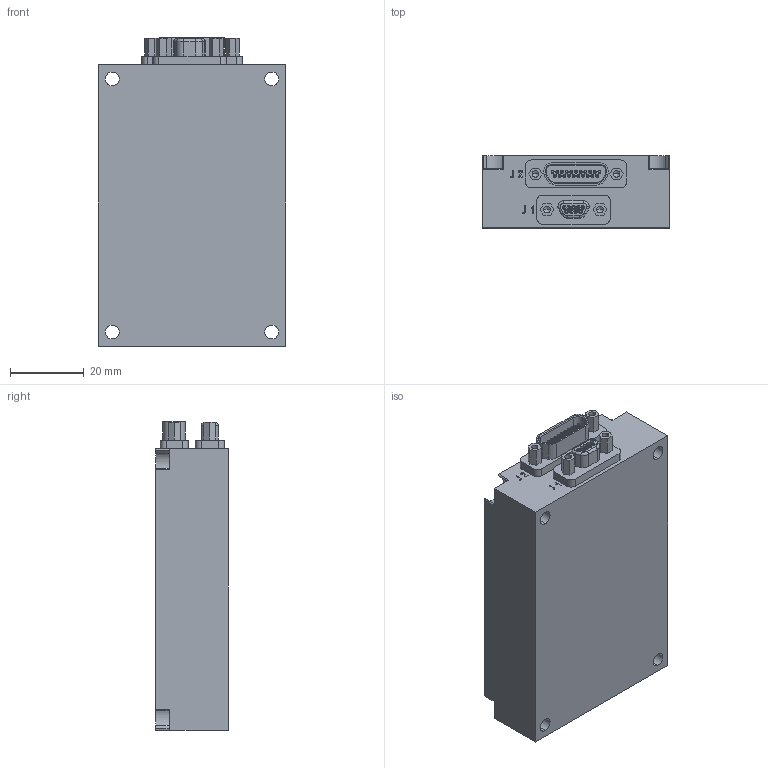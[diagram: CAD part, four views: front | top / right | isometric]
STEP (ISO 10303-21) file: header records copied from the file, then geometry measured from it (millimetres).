
FILE_DESCRIPTION (( 'STEP AP214' ), '1' );
FILE_NAME ('QSX-EVTM-SED-XX.STEP', '2017-04-28T13:44:32', ( '' ), ( '' ), 'SwSTEP 2.0', 'SolidWorks 2016', '' );
FILE_SCHEMA (( 'AUTOMOTIVE_DESIGN' ));
Length unit declared in the file: inch
Products named in the file (1): QSX-EVTM-SED-XX
Bounding box: 50.8 x 19.56 x 83.52 mm (x, y, z)
Volume: 76151.2 mm3; surface area: 16223 mm2
Topology: 9 solids, 9 shells, 713 faces, 1694 edges, 1105 vertices
Faces by surface type: plane 342, cylinder 248, bspline 63, cone 55, torus 5
Entity records: 32632 total; most frequent: CARTESIAN_POINT 6599, DIRECTION 3415, ORIENTED_EDGE 3388, EDGE_CURVE 1694, AXIS2_PLACEMENT_3D 1207, VERTEX_POINT 1105, LINE 1001, VECTOR 1001
